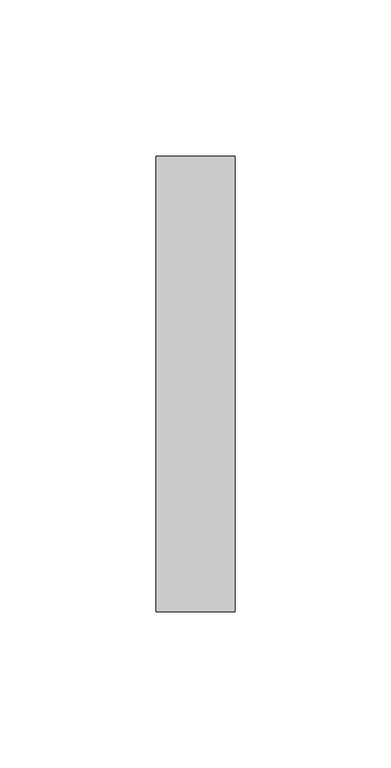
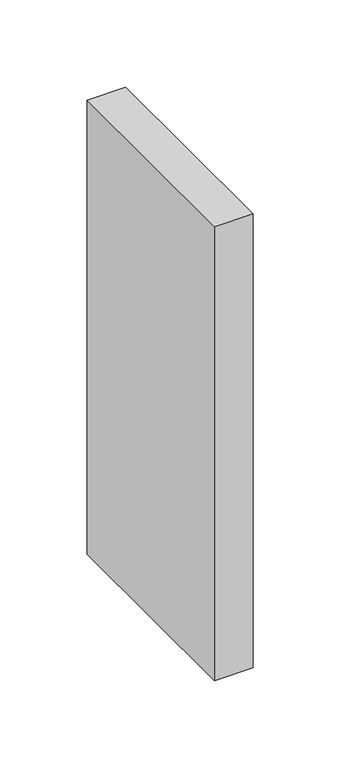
"""IFC4 building model written with IfcOpenShell, lengths in millimetres: proxy geometry, CAMBRIDGE^TABLE 2_4884 Rect-TOP STILE 2."""

from ifc_helpers import new_model, si_unit, frame, origin, place, context, project, spatial, polyline, outline, extrude, source, transform, mapped, element, save


def generic_models_03134556(model_context):
    return source(origin(), model_context, "Body", "SweptSolid", [
        extrude(outline(polyline([(609.6, 0.0), (635.0, 0.0), (635.0, -146.05), (609.6, -146.05), (609.6, 0.0)])), frame((0.0, 0.0, -768.35), z_axis=(0.0, 0.0, 1.0), x_axis=(1.0, 0.0, 0.0)), (0.0, 0.0, 1.0), 317.5),
    ])


if __name__ == "__main__":
    model = new_model("IFC4")
    model_context = context("Model", 3, world=origin())
    ifc_project = project(units=[si_unit("LENGTHUNIT", "METRE", prefix="MILLI")], contexts=[model_context])
    site = spatial("IfcSite", under=ifc_project)
    building = spatial("IfcBuilding", under=site)
    placement = place(None, origin())
    generic_models_shape = generic_models_03134556(model_context)
    element("IfcBuildingElementProxy", 1, Name="CAMBRIDGE^TABLE 2_4884 Rect-TOP STILE 2", ObjectType="CAMBRIDGE^TABLE 2_4884 Rect-TOP STILE 2", at=placement, inside=building, context=model_context, shape_type="MappedRepresentation", body=[
        mapped(generic_models_shape, transform((0.0, 0.0, 0.0), x_axis=(1.0, 0.0, 0.0), y_axis=(0.0, 1.0, 0.0), z_axis=(0.0, 0.0, 1.0))),
    ])
    save(model, "model.ifc")
